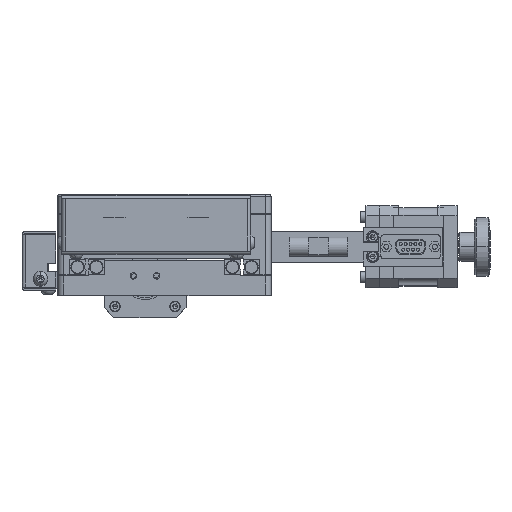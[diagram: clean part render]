
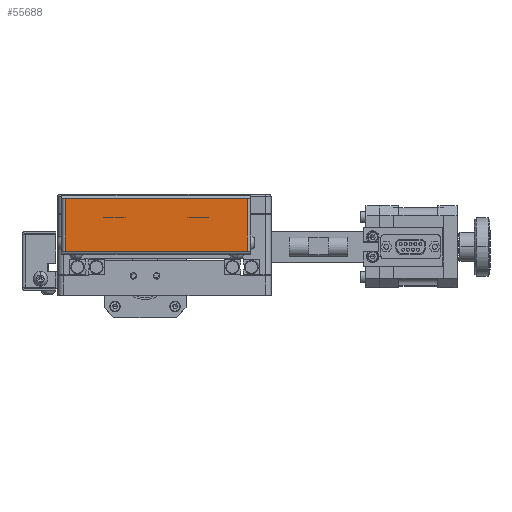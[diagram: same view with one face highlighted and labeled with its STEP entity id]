
A CAD part, top view. The second image highlights one B-rep face of the part: STEP entity #55688.
In plain terms, the highlighted planar face has unit normal (0, 0, 1).
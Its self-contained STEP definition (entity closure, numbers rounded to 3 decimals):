
#263 = EDGE_LOOP ( 'NONE', ( #56864, #15252, #62881, #1150 ) ) ;
#468 = LINE ( 'NONE', #36600, #20045 ) ;
#1150 = ORIENTED_EDGE ( 'NONE', *, *, #35762, .T. ) ;
#2047 = DIRECTION ( 'NONE',  ( 0., 1., 0. ) ) ;
#10639 = EDGE_CURVE ( 'NONE', #39905, #42764, #30542, .T. ) ;
#10655 = CARTESIAN_POINT ( 'NONE',  ( 44.5, 42.432, 101.002 ) ) ;
#11249 = DIRECTION ( 'NONE',  ( 0., 0., 1. ) ) ;
#14100 = VECTOR ( 'NONE', #17796, 1000. ) ;
#15210 = DIRECTION ( 'NONE',  ( 0., -1., 0. ) ) ;
#15252 = ORIENTED_EDGE ( 'NONE', *, *, #10639, .T. ) ;
#15648 = LINE ( 'NONE', #10655, #18795 ) ;
#17796 = DIRECTION ( 'NONE',  ( 0., -1., 0. ) ) ;
#18795 = VECTOR ( 'NONE', #44772, 1000. ) ;
#20045 = VECTOR ( 'NONE', #35944, 1000. ) ;
#23742 = EDGE_CURVE ( 'NONE', #42764, #28237, #468, .T. ) ;
#23949 = CARTESIAN_POINT ( 'NONE',  ( -51.263, 15.405, 101.002 ) ) ;
#26550 = CARTESIAN_POINT ( 'NONE',  ( 42.763, 15.405, 101.002 ) ) ;
#27742 = CARTESIAN_POINT ( 'NONE',  ( -51.263, 42.432, 101.002 ) ) ;
#28237 = VERTEX_POINT ( 'NONE', #31280 ) ;
#28343 = FACE_OUTER_BOUND ( 'NONE', #263, .T. ) ;
#30542 = LINE ( 'NONE', #62177, #14100 ) ;
#31280 = CARTESIAN_POINT ( 'NONE',  ( 42.763, 15.405, 101.002 ) ) ;
#33945 = AXIS2_PLACEMENT_3D ( 'NONE', #60421, #11249, #15210 ) ;
#35762 = EDGE_CURVE ( 'NONE', #28237, #56491, #61344, .T. ) ;
#35944 = DIRECTION ( 'NONE',  ( 1., 0., 0. ) ) ;
#36600 = CARTESIAN_POINT ( 'NONE',  ( -53., 15.405, 101.002 ) ) ;
#39905 = VERTEX_POINT ( 'NONE', #27742 ) ;
#41182 = PLANE ( 'NONE',  #33945 ) ;
#42764 = VERTEX_POINT ( 'NONE', #23949 ) ;
#44772 = DIRECTION ( 'NONE',  ( -1., 0., 0. ) ) ;
#45660 = VECTOR ( 'NONE', #2047, 1000. ) ;
#47834 = CARTESIAN_POINT ( 'NONE',  ( 42.763, 42.432, 101.002 ) ) ;
#55688 = ADVANCED_FACE ( 'NONE', ( #28343 ), #41182, .T. ) ;
#56491 = VERTEX_POINT ( 'NONE', #47834 ) ;
#56737 = EDGE_CURVE ( 'NONE', #56491, #39905, #15648, .T. ) ;
#56864 = ORIENTED_EDGE ( 'NONE', *, *, #56737, .T. ) ;
#60421 = CARTESIAN_POINT ( 'NONE',  ( 44.5, 13.669, 101.002 ) ) ;
#61344 = LINE ( 'NONE', #26550, #45660 ) ;
#62177 = CARTESIAN_POINT ( 'NONE',  ( -51.263, 42.432, 101.002 ) ) ;
#62881 = ORIENTED_EDGE ( 'NONE', *, *, #23742, .T. ) ;
